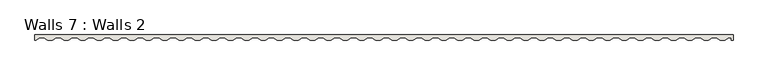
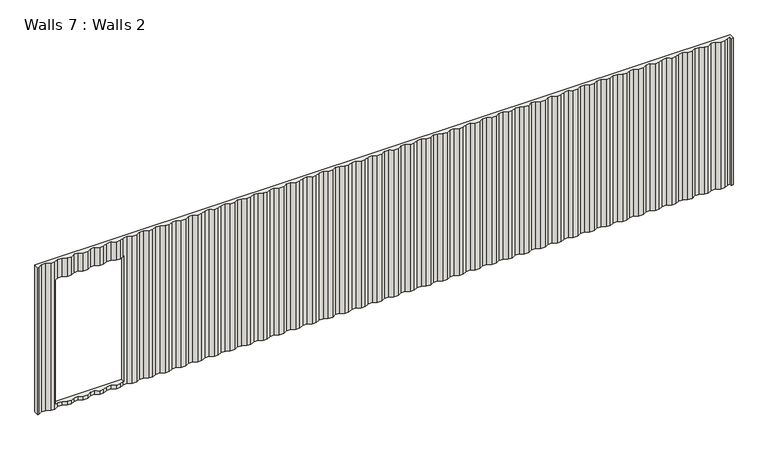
"""IFC4 building model written with IfcOpenShell, lengths in millimetres: wall geometry, Walls 7 : Walls 2."""

from ifc_helpers import new_model, si_unit, origin, place, context, project, spatial, faceted_brep, source, transform, mapped, element, save


def walls_7_walls_2_49b3b5f7(model_context):
    return source(origin(), model_context, "Body", "Brep", [
        faceted_brep([(7787.8891893, -2887.7772175, 3056.9999942), (-4042.1108023, -2887.7772175, 3056.9999942), (-4042.1108023, -2974.7772175, 3056.9999942), (-4029.8963726, -2974.7772175, 3056.9999942), (-3961.8963707, -2938.7772165, 3056.9999942), (-3891.8963644, -2938.7772165, 3056.9999942), (-3823.8963658, -2974.7772175, 3056.9999942), (-3751.8963651, -2974.7772175, 3056.9999942), (-3683.8963632, -2938.7772165, 3056.9999942), (-3613.8963569, -2938.7772165, 3056.9999942), (-3545.8963651, -2974.7772175, 3056.9999942), (-3473.8963651, -2974.7772175, 3056.9999942), (-3405.8963632, -2938.7772165, 3056.9999942), (-3335.8963569, -2938.7772165, 3056.9999942), (-3267.8963651, -2974.7772175, 3056.9999942), (-3195.8963651, -2974.7772175, 3056.9999942), (-3127.8963632, -2938.7772165, 3056.9999942), (-3057.8963569, -2938.7772165, 3056.9999942), (-2989.8963651, -2974.7772175, 3056.9999942), (-2917.8963651, -2974.7772175, 3056.9999942), (-2849.8963632, -2938.7772165, 3056.9999942), (-2779.8963569, -2938.7772165, 3056.9999942), (-2711.8963651, -2974.7772175, 3056.9999942), (-2639.8963651, -2974.7772175, 3056.9999942), (-2571.8963632, -2938.7772165, 3056.9999942), (-2501.8963569, -2938.7772165, 3056.9999942), (-2433.8963651, -2974.7772175, 3056.9999942), (-2361.8963651, -2974.7772175, 3056.9999942), (-2293.8963632, -2938.7772165, 3056.9999942), (-2223.8963569, -2938.7772165, 3056.9999942), (-2155.8963651, -2974.7772175, 3056.9999942), (-2083.8963651, -2974.7772175, 3056.9999942), (-2015.8963632, -2938.7772165, 3056.9999942), (-1945.8963569, -2938.7772165, 3056.9999942), (-1877.8963651, -2974.7772175, 3056.9999942), (-1805.8963651, -2974.7772175, 3056.9999942), (-1737.8963632, -2938.7772165, 3056.9999942), (-1667.8963569, -2938.7772165, 3056.9999942), (-1599.8963651, -2974.7772175, 3056.9999942), (-1527.8963651, -2974.7772175, 3056.9999942), (-1459.8963632, -2938.7772165, 3056.9999942), (-1389.8963569, -2938.7772165, 3056.9999942), (-1321.8963651, -2974.7772175, 3056.9999942), (-1249.8963651, -2974.7772175, 3056.9999942), (-1181.8963632, -2938.7772165, 3056.9999942), (-1111.8963569, -2938.7772165, 3056.9999942), (-1043.8963651, -2974.7772175, 3056.9999942), (-971.8963651, -2974.7772175, 3056.9999942), (-903.8963632, -2938.7772165, 3056.9999942), (-833.8963569, -2938.7772165, 3056.9999942), (-765.8963651, -2974.7772175, 3056.9999942), (-693.8963651, -2974.7772175, 3056.9999942), (-625.8963632, -2938.7772165, 3056.9999942), (-555.8963569, -2938.7772165, 3056.9999942), (-487.8963651, -2974.7772175, 3056.9999942), (-415.8963651, -2974.7772175, 3056.9999942), (-347.8963632, -2938.7772165, 3056.9999942), (-277.8963569, -2938.7772165, 3056.9999942), (-209.8963651, -2974.7772175, 3056.9999942), (-137.8963651, -2974.7772175, 3056.9999942), (-69.8963632, -2938.7772165, 3056.9999942), (0.1036431, -2938.7772165, 3056.9999942), (68.1036349, -2974.7772175, 3056.9999942), (140.1036349, -2974.7772175, 3056.9999942), (208.1036368, -2938.7772165, 3056.9999942), (278.1036431, -2938.7772165, 3056.9999942), (346.1036349, -2974.7772175, 3056.9999942), (418.1036349, -2974.7772175, 3056.9999942), (486.1036368, -2938.7772165, 3056.9999942), (556.1036431, -2938.7772165, 3056.9999942), (624.1036349, -2974.7772175, 3056.9999942), (696.1036349, -2974.7772175, 3056.9999942), (764.1036368, -2938.7772165, 3056.9999942), (834.1036431, -2938.7772165, 3056.9999942), (902.1036349, -2974.7772175, 3056.9999942), (974.1036349, -2974.7772175, 3056.9999942), (1042.1036368, -2938.7772165, 3056.9999942), (1112.1036431, -2938.7772165, 3056.9999942), (1180.1036349, -2974.7772175, 3056.9999942), (1252.1036349, -2974.7772175, 3056.9999942), (1320.1036368, -2938.7772165, 3056.9999942), (1390.1036431, -2938.7772165, 3056.9999942), (1458.1036349, -2974.7772175, 3056.9999942), (1530.1036349, -2974.7772175, 3056.9999942), (1598.1036368, -2938.7772165, 3056.9999942), (1668.1036431, -2938.7772165, 3056.9999942), (1736.1036349, -2974.7772175, 3056.9999942), (1808.1036349, -2974.7772175, 3056.9999942), (1876.1036368, -2938.7772165, 3056.9999942), (1946.1036431, -2938.7772165, 3056.9999942), (2014.1036349, -2974.7772175, 3056.9999942), (2086.1036349, -2974.7772175, 3056.9999942), (2154.1036368, -2938.7772165, 3056.9999942), (2224.1036431, -2938.7772165, 3056.9999942), (2292.1036349, -2974.7772175, 3056.9999942), (2364.1036349, -2974.7772175, 3056.9999942), (2432.1036368, -2938.7772165, 3056.9999942), (2502.1036431, -2938.7772165, 3056.9999942), (2570.1036349, -2974.7772175, 3056.9999942), (2642.1036349, -2974.7772175, 3056.9999942), (2710.1036368, -2938.7772165, 3056.9999942), (2780.1036431, -2938.7772165, 3056.9999942), (2848.1036349, -2974.7772175, 3056.9999942), (2920.1036349, -2974.7772175, 3056.9999942), (2988.1036368, -2938.7772165, 3056.9999942), (3058.1036431, -2938.7772165, 3056.9999942), (3126.1036349, -2974.7772175, 3056.9999942), (3198.1036349, -2974.7772175, 3056.9999942), (3266.1036368, -2938.7772165, 3056.9999942), (3336.1036431, -2938.7772165, 3056.9999942), (3404.1036349, -2974.7772175, 3056.9999942), (3476.1036349, -2974.7772175, 3056.9999942), (3544.1036368, -2938.7772165, 3056.9999942), (3614.1036431, -2938.7772165, 3056.9999942), (3682.1036349, -2974.7772175, 3056.9999942), (3754.1036349, -2974.7772175, 3056.9999942), (3822.1036368, -2938.7772165, 3056.9999942), (3892.1036431, -2938.7772165, 3056.9999942), (3960.1036349, -2974.7772175, 3056.9999942), (4032.1036349, -2974.7772175, 3056.9999942), (4100.1036368, -2938.7772165, 3056.9999942), (4170.1036431, -2938.7772165, 3056.9999942), (4238.1036349, -2974.7772175, 3056.9999942), (4310.1036349, -2974.7772175, 3056.9999942), (4378.1036368, -2938.7772165, 3056.9999942), (4448.1036431, -2938.7772165, 3056.9999942), (4516.1036349, -2974.7772175, 3056.9999942), (4588.1036349, -2974.7772175, 3056.9999942), (4656.1036368, -2938.7772165, 3056.9999942), (4726.1036431, -2938.7772165, 3056.9999942), (4794.1036349, -2974.7772175, 3056.9999942), (4866.1036349, -2974.7772175, 3056.9999942), (4934.1036368, -2938.7772165, 3056.9999942), (5004.1036431, -2938.7772165, 3056.9999942), (5072.1036349, -2974.7772175, 3056.9999942), (5144.1036349, -2974.7772175, 3056.9999942), (5212.1036368, -2938.7772165, 3056.9999942), (5282.1036431, -2938.7772165, 3056.9999942), (5350.1036349, -2974.7772175, 3056.9999942), (5422.1036349, -2974.7772175, 3056.9999942), (5490.1036368, -2938.7772165, 3056.9999942), (5560.1036431, -2938.7772165, 3056.9999942), (5628.1036349, -2974.7772175, 3056.9999942), (5700.1036349, -2974.7772175, 3056.9999942), (5768.1036368, -2938.7772165, 3056.9999942), (5838.1036431, -2938.7772165, 3056.9999942), (5906.1036349, -2974.7772175, 3056.9999942), (5978.1036349, -2974.7772175, 3056.9999942), (6046.1036368, -2938.7772165, 3056.9999942), (6116.1036431, -2938.7772165, 3056.9999942), (6184.1036349, -2974.7772175, 3056.9999942), (6256.1036349, -2974.7772175, 3056.9999942), (6324.1036368, -2938.7772165, 3056.9999942), (6394.1036431, -2938.7772165, 3056.9999942), (6462.1036349, -2974.7772175, 3056.9999942), (6534.1036349, -2974.7772175, 3056.9999942), (6602.1036368, -2938.7772165, 3056.9999942), (6672.1036431, -2938.7772165, 3056.9999942), (6740.1036349, -2974.7772175, 3056.9999942), (6812.1036349, -2974.7772175, 3056.9999942), (6880.1036368, -2938.7772165, 3056.9999942), (6950.1036431, -2938.7772165, 3056.9999942), (7018.1036349, -2974.7772175, 3056.9999942), (7090.1036349, -2974.7772175, 3056.9999942), (7158.1036368, -2938.7772165, 3056.9999942), (7228.1036431, -2938.7772165, 3056.9999942), (7296.1036349, -2974.7772175, 3056.9999942), (7368.1036349, -2974.7772175, 3056.9999942), (7436.1036368, -2938.7772165, 3056.9999942), (7506.1036431, -2938.7772165, 3056.9999942), (7574.1036349, -2974.7772175, 3056.9999942), (7646.1036349, -2974.7772175, 3056.9999942), (7714.1036368, -2938.7772165, 3056.9999942), (7753.0930791, -2938.7772165, 3056.9999942), (7753.0930791, -2974.7772175, 3056.9999942), (7787.8891893, -2974.7772175, 3056.9999942), (-4042.1108023, -2887.7772175, 411.0), (7787.8891893, -2887.7772175, 411.0), (7787.8891893, -2974.7772175, 411.0), (7753.0930791, -2974.7772175, 411.0), (7753.0930791, -2938.7772165, 411.0), (7714.1036368, -2938.7772165, 411.0), (7646.1036349, -2974.7772175, 411.0), (7574.1036349, -2974.7772175, 411.0), (7506.1036431, -2938.7772165, 411.0), (7436.1036368, -2938.7772165, 411.0), (7368.1036349, -2974.7772175, 411.0), (7296.1036349, -2974.7772175, 411.0), (7228.1036431, -2938.7772165, 411.0), (7158.1036368, -2938.7772165, 411.0), (7090.1036349, -2974.7772175, 411.0), (7018.1036349, -2974.7772175, 411.0), (6950.1036431, -2938.7772165, 411.0), (6880.1036368, -2938.7772165, 411.0), (6812.1036349, -2974.7772175, 411.0), (6740.1036349, -2974.7772175, 411.0), (6672.1036431, -2938.7772165, 411.0), (6602.1036368, -2938.7772165, 411.0), (6534.1036349, -2974.7772175, 411.0), (6462.1036349, -2974.7772175, 411.0), (6394.1036431, -2938.7772165, 411.0), (6324.1036368, -2938.7772165, 411.0), (6256.1036349, -2974.7772175, 411.0), (6184.1036349, -2974.7772175, 411.0), (6116.1036431, -2938.7772165, 411.0), (6046.1036368, -2938.7772165, 411.0), (5978.1036349, -2974.7772175, 411.0), (5906.1036349, -2974.7772175, 411.0), (5838.1036431, -2938.7772165, 411.0), (5768.1036368, -2938.7772165, 411.0), (5700.1036349, -2974.7772175, 411.0), (5628.1036349, -2974.7772175, 411.0), (5560.1036431, -2938.7772165, 411.0), (5490.1036368, -2938.7772165, 411.0), (5422.1036349, -2974.7772175, 411.0), (5350.1036349, -2974.7772175, 411.0), (5282.1036431, -2938.7772165, 411.0), (5212.1036368, -2938.7772165, 411.0), (5144.1036349, -2974.7772175, 411.0), (5072.1036349, -2974.7772175, 411.0), (5004.1036431, -2938.7772165, 411.0), (4934.1036368, -2938.7772165, 411.0), (4866.1036349, -2974.7772175, 411.0), (4794.1036349, -2974.7772175, 411.0), (4726.1036431, -2938.7772165, 411.0), (4656.1036368, -2938.7772165, 411.0), (4588.1036349, -2974.7772175, 411.0), (4516.1036349, -2974.7772175, 411.0), (4448.1036431, -2938.7772165, 411.0), (4378.1036368, -2938.7772165, 411.0), (4310.1036349, -2974.7772175, 411.0), (4238.1036349, -2974.7772175, 411.0), (4170.1036431, -2938.7772165, 411.0), (4100.1036368, -2938.7772165, 411.0), (4032.1036349, -2974.7772175, 411.0), (3960.1036349, -2974.7772175, 411.0), (3892.1036431, -2938.7772165, 411.0), (3822.1036368, -2938.7772165, 411.0), (3754.1036349, -2974.7772175, 411.0), (3682.1036349, -2974.7772175, 411.0), (3614.1036431, -2938.7772165, 411.0), (3544.1036368, -2938.7772165, 411.0), (3476.1036349, -2974.7772175, 411.0), (3404.1036349, -2974.7772175, 411.0), (3336.1036431, -2938.7772165, 411.0), (3266.1036368, -2938.7772165, 411.0), (3198.1036349, -2974.7772175, 411.0), (3126.1036349, -2974.7772175, 411.0), (3058.1036431, -2938.7772165, 411.0), (2988.1036368, -2938.7772165, 411.0), (2920.1036349, -2974.7772175, 411.0), (2848.1036349, -2974.7772175, 411.0), (2780.1036431, -2938.7772165, 411.0), (2710.1036368, -2938.7772165, 411.0), (2642.1036349, -2974.7772175, 411.0), (2570.1036349, -2974.7772175, 411.0), (2502.1036431, -2938.7772165, 411.0), (2432.1036368, -2938.7772165, 411.0), (2364.1036349, -2974.7772175, 411.0), (2292.1036349, -2974.7772175, 411.0), (2224.1036431, -2938.7772165, 411.0), (2154.1036368, -2938.7772165, 411.0), (2086.1036349, -2974.7772175, 411.0), (2014.1036349, -2974.7772175, 411.0), (1946.1036431, -2938.7772165, 411.0), (1876.1036368, -2938.7772165, 411.0), (1808.1036349, -2974.7772175, 411.0), (1736.1036349, -2974.7772175, 411.0), (1668.1036431, -2938.7772165, 411.0), (1598.1036368, -2938.7772165, 411.0), (1530.1036349, -2974.7772175, 411.0), (1458.1036349, -2974.7772175, 411.0), (1390.1036431, -2938.7772165, 411.0), (1320.1036368, -2938.7772165, 411.0), (1252.1036349, -2974.7772175, 411.0), (1180.1036349, -2974.7772175, 411.0), (1112.1036431, -2938.7772165, 411.0), (1042.1036368, -2938.7772165, 411.0), (974.1036349, -2974.7772175, 411.0), (902.1036349, -2974.7772175, 411.0), (834.1036431, -2938.7772165, 411.0), (764.1036368, -2938.7772165, 411.0), (696.1036349, -2974.7772175, 411.0), (624.1036349, -2974.7772175, 411.0), (556.1036431, -2938.7772165, 411.0), (486.1036368, -2938.7772165, 411.0), (418.1036349, -2974.7772175, 411.0), (346.1036349, -2974.7772175, 411.0), (278.1036431, -2938.7772165, 411.0), (208.1036368, -2938.7772165, 411.0), (140.1036349, -2974.7772175, 411.0), (68.1036349, -2974.7772175, 411.0), (0.1036431, -2938.7772165, 411.0), (-69.8963632, -2938.7772165, 411.0), (-137.8963651, -2974.7772175, 411.0), (-209.8963651, -2974.7772175, 411.0), (-277.8963569, -2938.7772165, 411.0), (-347.8963632, -2938.7772165, 411.0), (-415.8963651, -2974.7772175, 411.0), (-487.8963651, -2974.7772175, 411.0), (-555.8963569, -2938.7772165, 411.0), (-625.8963632, -2938.7772165, 411.0), (-693.8963651, -2974.7772175, 411.0), (-765.8963651, -2974.7772175, 411.0), (-833.8963569, -2938.7772165, 411.0), (-903.8963632, -2938.7772165, 411.0), (-971.8963651, -2974.7772175, 411.0), (-1043.8963651, -2974.7772175, 411.0), (-1111.8963569, -2938.7772165, 411.0), (-1181.8963632, -2938.7772165, 411.0), (-1249.8963651, -2974.7772175, 411.0), (-1321.8963651, -2974.7772175, 411.0), (-1389.8963569, -2938.7772165, 411.0), (-1459.8963632, -2938.7772165, 411.0), (-1527.8963651, -2974.7772175, 411.0), (-1599.8963651, -2974.7772175, 411.0), (-1667.8963569, -2938.7772165, 411.0), (-1737.8963632, -2938.7772165, 411.0), (-1805.8963651, -2974.7772175, 411.0), (-1877.8963651, -2974.7772175, 411.0), (-1945.8963569, -2938.7772165, 411.0), (-2015.8963632, -2938.7772165, 411.0), (-2083.8963651, -2974.7772175, 411.0), (-2155.8963651, -2974.7772175, 411.0), (-2223.8963569, -2938.7772165, 411.0), (-2293.8963632, -2938.7772165, 411.0), (-2361.8963651, -2974.7772175, 411.0), (-2433.8963651, -2974.7772175, 411.0), (-2501.8963569, -2938.7772165, 411.0), (-2571.8963632, -2938.7772165, 411.0), (-2639.8963651, -2974.7772175, 411.0), (-2711.8963651, -2974.7772175, 411.0), (-2779.8963569, -2938.7772165, 411.0), (-2849.8963632, -2938.7772165, 411.0), (-2917.8963651, -2974.7772175, 411.0), (-2989.8963651, -2974.7772175, 411.0), (-3057.8963569, -2938.7772165, 411.0), (-3127.8963632, -2938.7772165, 411.0), (-3195.8963651, -2974.7772175, 411.0), (-3267.8963651, -2974.7772175, 411.0), (-3335.8963569, -2938.7772165, 411.0), (-3405.8963632, -2938.7772165, 411.0), (-3473.8963651, -2974.7772175, 411.0), (-3545.8963651, -2974.7772175, 411.0), (-3613.8963569, -2938.7772165, 411.0), (-3683.8963632, -2938.7772165, 411.0), (-3751.8963651, -2974.7772175, 411.0), (-3823.8963658, -2974.7772175, 411.0), (-3891.8963644, -2938.7772165, 411.0), (-3961.8963707, -2938.7772165, 411.0), (-4029.8963726, -2974.7772175, 411.0), (-4042.1108023, -2974.7772175, 411.0), (-3737.8213662, -2887.7772175, 2728.0508653), (-3737.8213662, -2887.7772175, 474.0508653), (-2562.8213662, -2887.7772175, 474.0508653), (-2562.8213662, -2887.7772175, 2728.0508653), (-3683.8963632, -2938.7772165, 474.0508653), (-3737.8213662, -2967.3257475, 474.0508653), (-3737.8213662, -2967.3257475, 2728.0508653), (-3683.8963632, -2938.7772165, 2728.0508653), (-3613.8963569, -2938.7772165, 2728.0508653), (-3613.8963569, -2938.7772165, 474.0508653), (-3545.8963651, -2974.7772175, 2728.0508653), (-3545.8963651, -2974.7772175, 474.0508653), (-3473.8963651, -2974.7772175, 2728.0508653), (-3473.8963651, -2974.7772175, 474.0508653), (-3405.8963632, -2938.7772165, 2728.0508653), (-3405.8963632, -2938.7772165, 474.0508653), (-3335.8963569, -2938.7772165, 2728.0508653), (-3335.8963569, -2938.7772165, 474.0508653), (-3267.8963651, -2974.7772175, 2728.0508653), (-3267.8963651, -2974.7772175, 474.0508653), (-3195.8963651, -2974.7772175, 2728.0508653), (-3195.8963651, -2974.7772175, 474.0508653), (-3127.8963632, -2938.7772165, 2728.0508653), (-3127.8963632, -2938.7772165, 474.0508653), (-3057.8963569, -2938.7772165, 2728.0508653), (-3057.8963569, -2938.7772165, 474.0508653), (-2989.8963651, -2974.7772175, 2728.0508653), (-2989.8963651, -2974.7772175, 474.0508653), (-2917.8963651, -2974.7772175, 2728.0508653), (-2917.8963651, -2974.7772175, 474.0508653), (-2849.8963632, -2938.7772165, 2728.0508653), (-2849.8963632, -2938.7772165, 474.0508653), (-2779.8963569, -2938.7772165, 2728.0508653), (-2779.8963569, -2938.7772165, 474.0508653), (-2711.8963651, -2974.7772175, 2728.0508653), (-2711.8963651, -2974.7772175, 474.0508653), (-2639.8963651, -2974.7772175, 2728.0508653), (-2639.8963651, -2974.7772175, 474.0508653), (-2571.8963632, -2938.7772165, 2728.0508653), (-2571.8963632, -2938.7772165, 474.0508653), (-2562.8213662, -2938.7772165, 2728.0508653), (-2562.8213662, -2938.7772165, 474.0508653)], [[[0, 1, 2, 3, 4, 5, 6, 7, 8, 9, 10, 11, 12, 13, 14, 15, 16, 17, 18, 19, 20, 21, 22, 23, 24, 25, 26, 27, 28, 29, 30, 31, 32, 33, 34, 35, 36, 37, 38, 39, 40, 41, 42, 43, 44, 45, 46, 47, 48, 49, 50, 51, 52, 53, 54, 55, 56, 57, 58, 59, 60, 61, 62, 63, 64, 65, 66, 67, 68, 69, 70, 71, 72, 73, 74, 75, 76, 77, 78, 79, 80, 81, 82, 83, 84, 85, 86, 87, 88, 89, 90, 91, 92, 93, 94, 95, 96, 97, 98, 99, 100, 101, 102, 103, 104, 105, 106, 107, 108, 109, 110, 111, 112, 113, 114, 115, 116, 117, 118, 119, 120, 121, 122, 123, 124, 125, 126, 127, 128, 129, 130, 131, 132, 133, 134, 135, 136, 137, 138, 139, 140, 141, 142, 143, 144, 145, 146, 147, 148, 149, 150, 151, 152, 153, 154, 155, 156, 157, 158, 159, 160, 161, 162, 163, 164, 165, 166, 167, 168, 169, 170, 171, 172, 173, 174, 175]], [[176, 177, 178, 179, 180, 181, 182, 183, 184, 185, 186, 187, 188, 189, 190, 191, 192, 193, 194, 195, 196, 197, 198, 199, 200, 201, 202, 203, 204, 205, 206, 207, 208, 209, 210, 211, 212, 213, 214, 215, 216, 217, 218, 219, 220, 221, 222, 223, 224, 225, 226, 227, 228, 229, 230, 231, 232, 233, 234, 235, 236, 237, 238, 239, 240, 241, 242, 243, 244, 245, 246, 247, 248, 249, 250, 251, 252, 253, 254, 255, 256, 257, 258, 259, 260, 261, 262, 263, 264, 265, 266, 267, 268, 269, 270, 271, 272, 273, 274, 275, 276, 277, 278, 279, 280, 281, 282, 283, 284, 285, 286, 287, 288, 289, 290, 291, 292, 293, 294, 295, 296, 297, 298, 299, 300, 301, 302, 303, 304, 305, 306, 307, 308, 309, 310, 311, 312, 313, 314, 315, 316, 317, 318, 319, 320, 321, 322, 323, 324, 325, 326, 327, 328, 329, 330, 331, 332, 333, 334, 335, 336, 337, 338, 339, 340, 341, 342, 343, 344, 345, 346, 347, 348, 349, 350, 351]], [[177, 176, 1, 0], [352, 353, 354, 355]], [[176, 351, 2, 1]], [[0, 175, 178, 177]], [[4, 3, 350, 349]], [[5, 4, 349, 348]], [[6, 5, 348, 347]], [[7, 6, 347, 346]], [[8, 7, 346, 345, 356, 357, 358, 359]], [[9, 8, 359, 360]], [[345, 344, 361, 356]], [[10, 9, 360, 362]], [[344, 343, 363, 361]], [[11, 10, 362, 364]], [[343, 342, 365, 363]], [[12, 11, 364, 366]], [[342, 341, 367, 365]], [[13, 12, 366, 368]], [[341, 340, 369, 367]], [[14, 13, 368, 370]], [[340, 339, 371, 369]], [[15, 14, 370, 372]], [[339, 338, 373, 371]], [[16, 15, 372, 374]], [[338, 337, 375, 373]], [[17, 16, 374, 376]], [[337, 336, 377, 375]], [[18, 17, 376, 378]], [[336, 335, 379, 377]], [[19, 18, 378, 380]], [[335, 334, 381, 379]], [[20, 19, 380, 382]], [[334, 333, 383, 381]], [[21, 20, 382, 384]], [[333, 332, 385, 383]], [[22, 21, 384, 386]], [[332, 331, 387, 385]], [[23, 22, 386, 388]], [[331, 330, 389, 387]], [[24, 23, 388, 390]], [[330, 329, 391, 389]], [[25, 24, 390, 392, 393, 391, 329, 328]], [[26, 25, 328, 327]], [[27, 26, 327, 326]], [[28, 27, 326, 325]], [[29, 28, 325, 324]], [[30, 29, 324, 323]], [[31, 30, 323, 322]], [[32, 31, 322, 321]], [[33, 32, 321, 320]], [[34, 33, 320, 319]], [[35, 34, 319, 318]], [[36, 35, 318, 317]], [[37, 36, 317, 316]], [[38, 37, 316, 315]], [[39, 38, 315, 314]], [[40, 39, 314, 313]], [[41, 40, 313, 312]], [[42, 41, 312, 311]], [[43, 42, 311, 310]], [[44, 43, 310, 309]], [[45, 44, 309, 308]], [[46, 45, 308, 307]], [[47, 46, 307, 306]], [[48, 47, 306, 305]], [[49, 48, 305, 304]], [[50, 49, 304, 303]], [[51, 50, 303, 302]], [[52, 51, 302, 301]], [[53, 52, 301, 300]], [[54, 53, 300, 299]], [[55, 54, 299, 298]], [[56, 55, 298, 297]], [[57, 56, 297, 296]], [[58, 57, 296, 295]], [[59, 58, 295, 294]], [[60, 59, 294, 293]], [[61, 60, 293, 292]], [[62, 61, 292, 291]], [[63, 62, 291, 290]], [[64, 63, 290, 289]], [[65, 64, 289, 288]], [[66, 65, 288, 287]], [[67, 66, 287, 286]], [[68, 67, 286, 285]], [[69, 68, 285, 284]], [[70, 69, 284, 283]], [[71, 70, 283, 282]], [[72, 71, 282, 281]], [[73, 72, 281, 280]], [[74, 73, 280, 279]], [[75, 74, 279, 278]], [[76, 75, 278, 277]], [[77, 76, 277, 276]], [[78, 77, 276, 275]], [[79, 78, 275, 274]], [[80, 79, 274, 273]], [[81, 80, 273, 272]], [[82, 81, 272, 271]], [[83, 82, 271, 270]], [[84, 83, 270, 269]], [[357, 353, 352, 358]], [[358, 352, 355, 392, 390, 388, 386, 384, 382, 380, 378, 376, 374, 372, 370, 368, 366, 364, 362, 360, 359]], [[392, 355, 354, 393]], [[353, 357, 356, 361, 363, 365, 367, 369, 371, 373, 375, 377, 379, 381, 383, 385, 387, 389, 391, 393, 354]], [[174, 173, 180, 179]], [[175, 174, 179, 178]], [[3, 2, 351, 350]], [[85, 84, 269, 268]], [[86, 85, 268, 267]], [[87, 86, 267, 266]], [[88, 87, 266, 265]], [[89, 88, 265, 264]], [[90, 89, 264, 263]], [[91, 90, 263, 262]], [[92, 91, 262, 261]], [[93, 92, 261, 260]], [[94, 93, 260, 259]], [[95, 94, 259, 258]], [[96, 95, 258, 257]], [[97, 96, 257, 256]], [[98, 97, 256, 255]], [[99, 98, 255, 254]], [[100, 99, 254, 253]], [[101, 100, 253, 252]], [[102, 101, 252, 251]], [[103, 102, 251, 250]], [[104, 103, 250, 249]], [[105, 104, 249, 248]], [[106, 105, 248, 247]], [[107, 106, 247, 246]], [[108, 107, 246, 245]], [[109, 108, 245, 244]], [[110, 109, 244, 243]], [[111, 110, 243, 242]], [[112, 111, 242, 241]], [[113, 112, 241, 240]], [[114, 113, 240, 239]], [[115, 114, 239, 238]], [[116, 115, 238, 237]], [[117, 116, 237, 236]], [[118, 117, 236, 235]], [[119, 118, 235, 234]], [[120, 119, 234, 233]], [[121, 120, 233, 232]], [[122, 121, 232, 231]], [[123, 122, 231, 230]], [[124, 123, 230, 229]], [[125, 124, 229, 228]], [[126, 125, 228, 227]], [[127, 126, 227, 226]], [[128, 127, 226, 225]], [[129, 128, 225, 224]], [[130, 129, 224, 223]], [[131, 130, 223, 222]], [[132, 131, 222, 221]], [[133, 132, 221, 220]], [[134, 133, 220, 219]], [[135, 134, 219, 218]], [[136, 135, 218, 217]], [[137, 136, 217, 216]], [[138, 137, 216, 215]], [[139, 138, 215, 214]], [[140, 139, 214, 213]], [[141, 140, 213, 212]], [[142, 141, 212, 211]], [[143, 142, 211, 210]], [[144, 143, 210, 209]], [[145, 144, 209, 208]], [[146, 145, 208, 207]], [[147, 146, 207, 206]], [[148, 147, 206, 205]], [[149, 148, 205, 204]], [[150, 149, 204, 203]], [[151, 150, 203, 202]], [[152, 151, 202, 201]], [[153, 152, 201, 200]], [[154, 153, 200, 199]], [[155, 154, 199, 198]], [[156, 155, 198, 197]], [[157, 156, 197, 196]], [[158, 157, 196, 195]], [[159, 158, 195, 194]], [[160, 159, 194, 193]], [[161, 160, 193, 192]], [[162, 161, 192, 191]], [[163, 162, 191, 190]], [[164, 163, 190, 189]], [[165, 164, 189, 188]], [[166, 165, 188, 187]], [[167, 166, 187, 186]], [[168, 167, 186, 185]], [[169, 168, 185, 184]], [[170, 169, 184, 183]], [[171, 170, 183, 182]], [[172, 171, 182, 181]], [[173, 172, 181, 180]]]),
    ])


if __name__ == "__main__":
    model = new_model("IFC4")
    model_context = context("Model", 3, world=origin())
    ifc_project = project(units=[si_unit("LENGTHUNIT", "METRE", prefix="MILLI")], contexts=[model_context])
    site = spatial("IfcSite", under=ifc_project)
    building = spatial("IfcBuilding", under=site)
    placement = place(None, origin())
    walls_7_walls_2_shape = walls_7_walls_2_49b3b5f7(model_context)
    element("IfcWall", 1, ObjectType="Walls 7 : Walls 2", at=placement, inside=building, context=model_context, shape_type="MappedRepresentation", body=[
        mapped(walls_7_walls_2_shape, transform((0.0, 0.0, 0.0), x_axis=(1.0, 0.0, 0.0), y_axis=(0.0, 1.0, 0.0), z_axis=(0.0, 0.0, 1.0))),
    ])
    save(model, "model.ifc")
